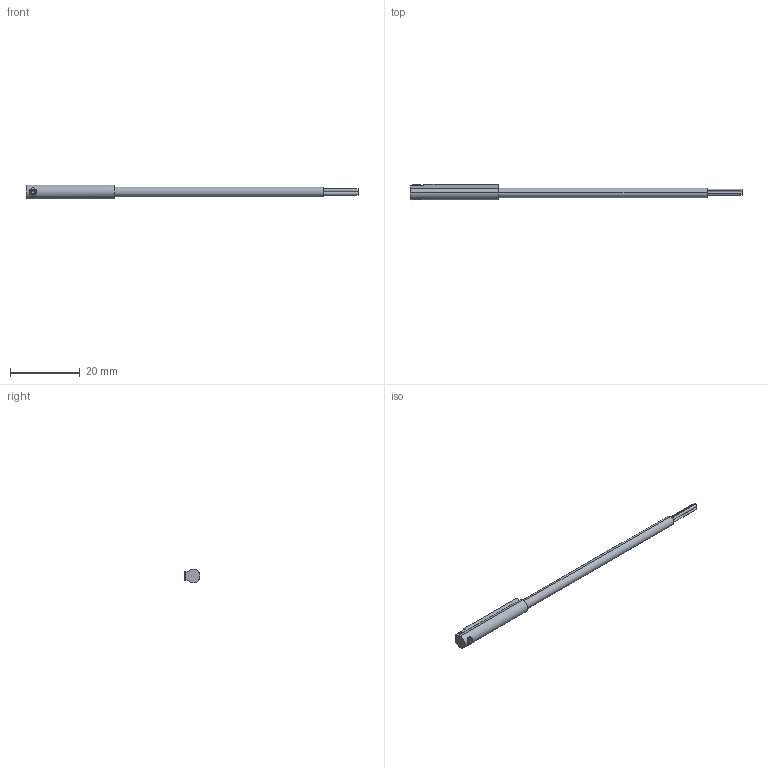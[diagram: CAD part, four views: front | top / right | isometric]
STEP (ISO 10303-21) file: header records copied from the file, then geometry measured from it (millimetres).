
FILE_DESCRIPTION (( 'STEP AP214' ), '1' );
FILE_NAME ('WT-07 (3D).STEP', '2018-12-24T09:38:17', ( 'Hidtek' ), ( '' ), 'SwSTEP 2.0', 'SolidWorks 2016', '' );
FILE_SCHEMA (( 'AUTOMOTIVE_DESIGN' ));
Length unit declared in the file: millimetre
Products named in the file (1): WT-07 (3D)
Bounding box: 95.5 x 4.5 x 4 mm (x, y, z)
Surface area: 1104.5 mm2 (no closed solid volume)
Topology: 0 solids, 14 shells, 281 faces, 944 edges, 676 vertices
Faces by surface type: plane 156, cylinder 75, bspline 40, cone 10
Entity records: 19770 total; most frequent: CARTESIAN_POINT 10315, ORIENTED_EDGE 1646, DIRECTION 1033, EDGE_CURVE 942, VERTEX_POINT 676, LINE 469, VECTOR 469, B_SPLINE_CURVE_WITH_KNOTS 432
